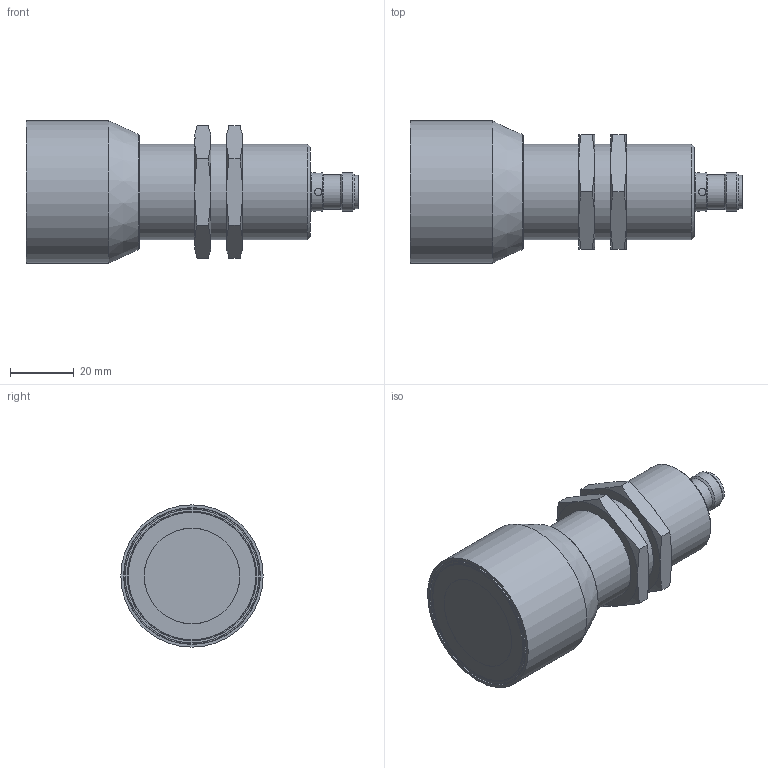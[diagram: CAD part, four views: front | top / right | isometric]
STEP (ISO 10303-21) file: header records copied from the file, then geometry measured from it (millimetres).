
FILE_DESCRIPTION(/* description */ (''),/* implementation_level */ '2;1');
FILE_NAME(/* name */ '3DCAD_DMU430B_6000_PTx_M12.stp',/* time_stamp */ '2019-04-01T11:45:56+02:00',/* author */ ('CC2'),/* organization */ ('Leuze electronic'),/* preprocessor_version */ 'ST-DEVELOPER v16',/* originating_system */ 'SIEMENS PLM Software NX 11.0',/* authorisation */ '');
FILE_SCHEMA (('AUTOMOTIVE_DESIGN { 1 0 10303 214 3 1 1 1 }'));
Length unit declared in the file: millimetre
Products named in the file (1): 19-102906_00_1-3DCAD_DMU430B_6000_PTx_M12
Bounding box: 104.3 x 44.7 x 44.7 mm (x, y, z)
Volume: 96707.6 mm3; surface area: 17447.1 mm2
Topology: 3 solids, 3 shells, 113 faces, 219 edges, 134 vertices
Faces by surface type: plane 40, cone 38, cylinder 31, torus 4
Full cylindrical faces by diameter (mm): 1 x5, 1.6 x1, 2.3 x4, 8.4 x1, 10.5 x1, 10.8 x1, 12 x2, 28.376 x2, 29.96 x1, 30 x2, 40.06 x1, 40.1 x1, 40.66 x1, 40.7 x1, 42 x1, 44.7 x1
Entity records: 3002 total; most frequent: CARTESIAN_POINT 921, DIRECTION 426, ORIENTED_EDGE 334, AXIS2_PLACEMENT_3D 203, EDGE_LOOP 183, EDGE_CURVE 167, FACE_BOUND 131, VERTEX_POINT 126
